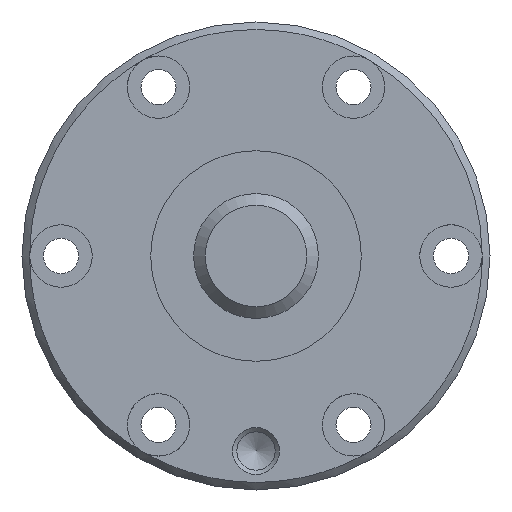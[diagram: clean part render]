
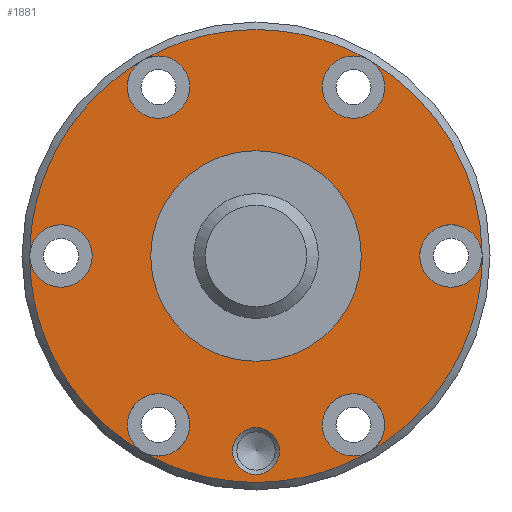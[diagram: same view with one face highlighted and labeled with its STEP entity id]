
A CAD part, left-side view. The second image highlights one B-rep face of the part: STEP entity #1881.
In plain terms, the highlighted planar face has unit normal (-1, 0, 0).
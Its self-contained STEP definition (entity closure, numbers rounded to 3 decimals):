
#452=ORIENTED_EDGE('',*,*,#946,.T.);
#453=ORIENTED_EDGE('',*,*,#947,.T.);
#454=ORIENTED_EDGE('',*,*,#948,.F.);
#455=ORIENTED_EDGE('',*,*,#949,.T.);
#456=ORIENTED_EDGE('',*,*,#950,.F.);
#457=ORIENTED_EDGE('',*,*,#951,.T.);
#458=ORIENTED_EDGE('',*,*,#952,.F.);
#459=ORIENTED_EDGE('',*,*,#953,.T.);
#460=ORIENTED_EDGE('',*,*,#954,.F.);
#461=ORIENTED_EDGE('',*,*,#955,.T.);
#462=ORIENTED_EDGE('',*,*,#956,.F.);
#463=ORIENTED_EDGE('',*,*,#957,.T.);
#464=ORIENTED_EDGE('',*,*,#958,.F.);
#465=ORIENTED_EDGE('',*,*,#959,.T.);
#946=EDGE_CURVE('',#1194,#1194,#1351,.T.);
#947=EDGE_CURVE('',#1195,#1195,#1352,.T.);
#948=EDGE_CURVE('',#1196,#1197,#1353,.T.);
#949=EDGE_CURVE('',#1196,#1196,#1354,.T.);
#950=EDGE_CURVE('',#1198,#1196,#1355,.T.);
#951=EDGE_CURVE('',#1198,#1198,#1356,.T.);
#952=EDGE_CURVE('',#1199,#1198,#1357,.T.);
#953=EDGE_CURVE('',#1199,#1199,#1358,.T.);
#954=EDGE_CURVE('',#1200,#1199,#1359,.T.);
#955=EDGE_CURVE('',#1200,#1200,#1360,.T.);
#956=EDGE_CURVE('',#1201,#1200,#1361,.T.);
#957=EDGE_CURVE('',#1201,#1201,#1362,.T.);
#958=EDGE_CURVE('',#1197,#1201,#1363,.T.);
#959=EDGE_CURVE('',#1197,#1197,#1364,.T.);
#1194=VERTEX_POINT('',#2965);
#1195=VERTEX_POINT('',#2967);
#1196=VERTEX_POINT('',#2969);
#1197=VERTEX_POINT('',#2970);
#1198=VERTEX_POINT('',#2973);
#1199=VERTEX_POINT('',#2976);
#1200=VERTEX_POINT('',#2979);
#1201=VERTEX_POINT('',#2982);
#1351=CIRCLE('',#2039,13.5);
#1352=CIRCLE('',#2040,3.);
#1353=CIRCLE('',#2041,29.);
#1354=CIRCLE('',#2042,4.);
#1355=CIRCLE('',#2043,29.);
#1356=CIRCLE('',#2044,4.);
#1357=CIRCLE('',#2045,29.);
#1358=CIRCLE('',#2046,4.);
#1359=CIRCLE('',#2047,29.);
#1360=CIRCLE('',#2048,4.);
#1361=CIRCLE('',#2049,29.);
#1362=CIRCLE('',#2050,4.);
#1363=CIRCLE('',#2051,29.);
#1364=CIRCLE('',#2052,4.);
#1452=EDGE_LOOP('',(#452));
#1453=EDGE_LOOP('',(#453));
#1454=EDGE_LOOP('',(#454,#455,#456,#457,#458,#459,#460,#461,#462,#463,#464,
#465));
#1634=FACE_BOUND('',#1452,.T.);
#1635=FACE_BOUND('',#1453,.T.);
#1636=FACE_BOUND('',#1454,.T.);
#1807=PLANE('',#2038);
#1881=ADVANCED_FACE('',(#1634,#1635,#1636),#1807,.T.);
#2038=AXIS2_PLACEMENT_3D('',#2963,#2308,#2309);
#2039=AXIS2_PLACEMENT_3D('',#2964,#2310,#2311);
#2040=AXIS2_PLACEMENT_3D('',#2966,#2312,#2313);
#2041=AXIS2_PLACEMENT_3D('',#2968,#2314,#2315);
#2042=AXIS2_PLACEMENT_3D('',#2971,#2316,#2317);
#2043=AXIS2_PLACEMENT_3D('',#2972,#2318,#2319);
#2044=AXIS2_PLACEMENT_3D('',#2974,#2320,#2321);
#2045=AXIS2_PLACEMENT_3D('',#2975,#2322,#2323);
#2046=AXIS2_PLACEMENT_3D('',#2977,#2324,#2325);
#2047=AXIS2_PLACEMENT_3D('',#2978,#2326,#2327);
#2048=AXIS2_PLACEMENT_3D('',#2980,#2328,#2329);
#2049=AXIS2_PLACEMENT_3D('',#2981,#2330,#2331);
#2050=AXIS2_PLACEMENT_3D('',#2983,#2332,#2333);
#2051=AXIS2_PLACEMENT_3D('',#2984,#2334,#2335);
#2052=AXIS2_PLACEMENT_3D('',#2985,#2336,#2337);
#2308=DIRECTION('',(-1.,0.,0.));
#2309=DIRECTION('',(0.,0.,1.));
#2310=DIRECTION('',(1.,0.,0.));
#2311=DIRECTION('',(0.,0.,-1.));
#2312=DIRECTION('',(1.,0.,0.));
#2313=DIRECTION('',(0.,0.,-1.));
#2314=DIRECTION('',(1.,0.,0.));
#2315=DIRECTION('',(0.,0.,-1.));
#2316=DIRECTION('',(1.,0.,0.));
#2317=DIRECTION('',(0.,0.,-1.));
#2318=DIRECTION('',(1.,0.,0.));
#2319=DIRECTION('',(0.,0.,-1.));
#2320=DIRECTION('',(1.,0.,0.));
#2321=DIRECTION('',(0.,0.,-1.));
#2322=DIRECTION('',(1.,0.,0.));
#2323=DIRECTION('',(0.,0.,-1.));
#2324=DIRECTION('',(1.,0.,0.));
#2325=DIRECTION('',(0.,0.,-1.));
#2326=DIRECTION('',(1.,0.,0.));
#2327=DIRECTION('',(0.,0.,-1.));
#2328=DIRECTION('',(1.,0.,0.));
#2329=DIRECTION('',(0.,0.,-1.));
#2330=DIRECTION('',(1.,0.,0.));
#2331=DIRECTION('',(0.,0.,-1.));
#2332=DIRECTION('',(1.,0.,0.));
#2333=DIRECTION('',(0.,0.,-1.));
#2334=DIRECTION('',(1.,0.,0.));
#2335=DIRECTION('',(0.,0.,-1.));
#2336=DIRECTION('',(1.,0.,0.));
#2337=DIRECTION('',(0.,0.,-1.));
#2963=CARTESIAN_POINT('',(0.,29.,0.));
#2964=CARTESIAN_POINT('',(0.,0.,0.));
#2965=CARTESIAN_POINT('',(0.,0.,-13.5));
#2966=CARTESIAN_POINT('',(0.,-25.,0.));
#2967=CARTESIAN_POINT('',(0.,-25.,-3.));
#2968=CARTESIAN_POINT('',(0.,0.,0.));
#2969=CARTESIAN_POINT('',(0.,-25.115,-14.5));
#2970=CARTESIAN_POINT('',(0.,0.,-29.));
#2971=CARTESIAN_POINT('',(0.,-21.651,-12.5));
#2972=CARTESIAN_POINT('',(0.,0.,0.));
#2973=CARTESIAN_POINT('',(0.,-25.115,14.5));
#2974=CARTESIAN_POINT('',(0.,-21.651,12.5));
#2975=CARTESIAN_POINT('',(0.,0.,0.));
#2976=CARTESIAN_POINT('',(0.,0.,29.));
#2977=CARTESIAN_POINT('',(0.,0.,25.));
#2978=CARTESIAN_POINT('',(0.,0.,0.));
#2979=CARTESIAN_POINT('',(0.,25.115,14.5));
#2980=CARTESIAN_POINT('',(0.,21.651,12.5));
#2981=CARTESIAN_POINT('',(0.,0.,0.));
#2982=CARTESIAN_POINT('',(0.,25.115,-14.5));
#2983=CARTESIAN_POINT('',(0.,21.651,-12.5));
#2984=CARTESIAN_POINT('',(0.,0.,0.));
#2985=CARTESIAN_POINT('',(0.,0.,-25.));
